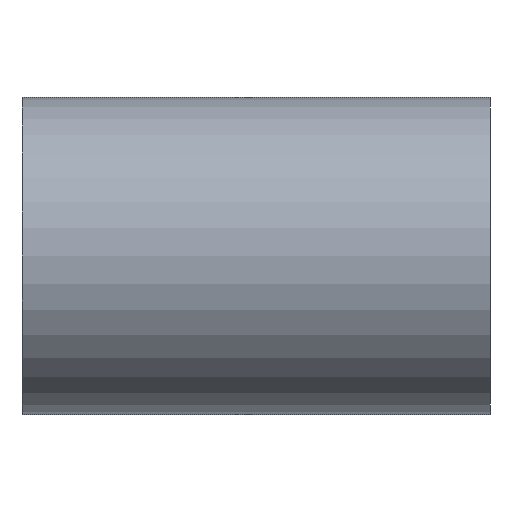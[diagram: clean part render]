
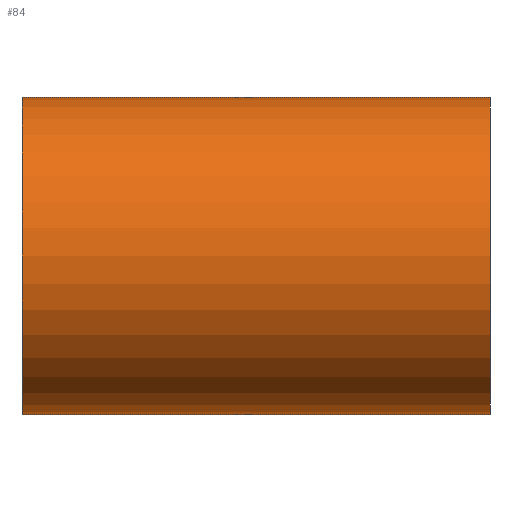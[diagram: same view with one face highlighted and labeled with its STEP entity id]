
A CAD part, front view. The second image highlights one B-rep face of the part: STEP entity #84.
In plain terms, the highlighted cylindrical face has radius 305 mm (diameter 610 mm), a partial arc.
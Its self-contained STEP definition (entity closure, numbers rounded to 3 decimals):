
#84=ADVANCED_FACE('',(#164),#165,.T.);
#164=FACE_OUTER_BOUND('',#255,.T.);
#165=CYLINDRICAL_SURFACE('',#256,305.0);
#255=EDGE_LOOP('',(#435,#436,#437,#438));
#256=AXIS2_PLACEMENT_3D('',#439,#440,#441);
#435=ORIENTED_EDGE('',*,*,#491,.T.);
#436=ORIENTED_EDGE('',*,*,#568,.F.);
#437=ORIENTED_EDGE('',*,*,#493,.T.);
#438=ORIENTED_EDGE('',*,*,#569,.F.);
#439=CARTESIAN_POINT('',(0.0,0.0,0.0));
#440=DIRECTION('',(1.0,0.0,0.0));
#441=DIRECTION('',(0.0,0.0,-1.0));
#491=EDGE_CURVE('',#573,#574,#575,.T.);
#493=EDGE_CURVE('',#578,#576,#579,.T.);
#568=EDGE_CURVE('',#578,#574,#690,.T.);
#569=EDGE_CURVE('',#573,#576,#691,.T.);
#573=VERTEX_POINT('',#695);
#574=VERTEX_POINT('',#696);
#575=LINE('',#697,#698);
#576=VERTEX_POINT('',#699);
#578=VERTEX_POINT('',#701);
#579=LINE('',#702,#703);
#690=CIRCLE('',#832,305.0);
#691=CIRCLE('',#833,305.0);
#695=CARTESIAN_POINT('',(-450.0,0.0,-305.0));
#696=CARTESIAN_POINT('',(450.0,0.0,-305.0));
#697=CARTESIAN_POINT('',(0.0,0.,-305.0));
#698=VECTOR('',#836,1.0);
#699=CARTESIAN_POINT('',(-450.0,0.,305.0));
#701=CARTESIAN_POINT('',(450.0,0.,305.0));
#702=CARTESIAN_POINT('',(0.0,0.,305.0));
#703=VECTOR('',#840,1.0);
#832=AXIS2_PLACEMENT_3D('',#970,#971,#972);
#833=AXIS2_PLACEMENT_3D('',#973,#974,#975);
#836=DIRECTION('',(1.0,0.0,0.0));
#840=DIRECTION('',(-1.0,-0.0,-0.0));
#970=CARTESIAN_POINT('',(450.0,0.0,0.0));
#971=DIRECTION('',(1.0,0.0,0.0));
#972=DIRECTION('',(0.0,0.0,-1.0));
#973=CARTESIAN_POINT('',(-450.0,0.0,0.0));
#974=DIRECTION('',(-1.0,0.0,0.0));
#975=DIRECTION('',(0.0,0.0,-1.0));
